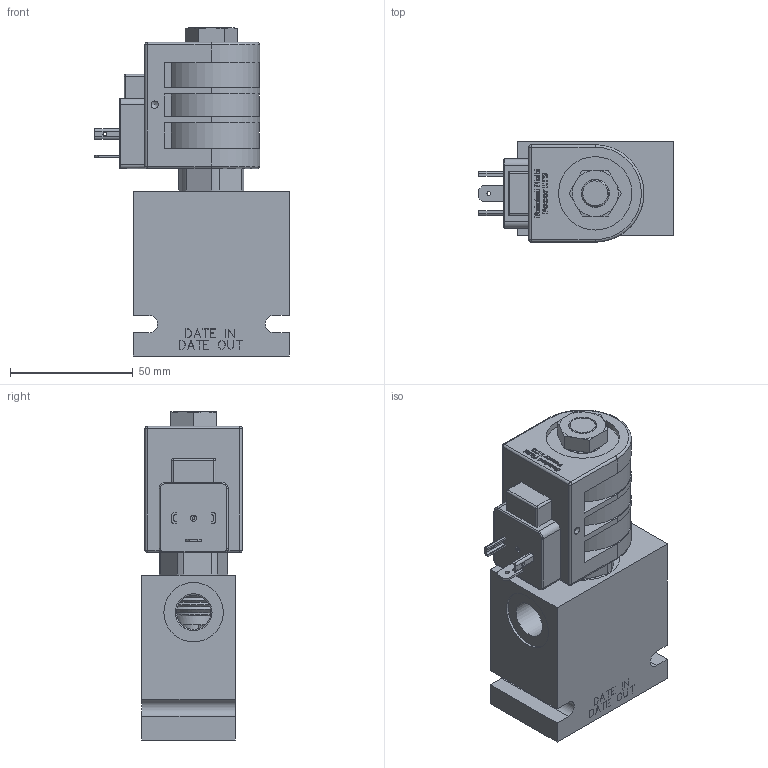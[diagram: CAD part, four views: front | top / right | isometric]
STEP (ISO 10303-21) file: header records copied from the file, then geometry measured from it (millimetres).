
FILE_DESCRIPTION( ( 'Unknown' ), '1' );
FILE_NAME( 'G:/Graphic Design/Graphic Design 2/Data Sheets/SOLENOID OPERATED VALVES/4_STEP/3W2P Spool/HF-S3A00-B3.stp', 'Unknown', ( 'Unknown' ), ( 'Unknown' ), 'PSStep 15.0.49', 'Unknown', ' ' );
FILE_SCHEMA( ( 'AUTOMOTIVE_DESIGN { 1 0 10303 214 1 1 1 1 }' ) );
Length unit declared in the file: millimetre
Products named in the file (19): d-lhc12; LHC-Body; LHC-Disc; PT-EL-HC-TerminalConnectors; D-HF-S3A-00; HFS3A00-3D Full1; HFS3A00-3D Full2; HFS3A00-3D Full3; HFS3A00-3D Full4; HFS3A00-3D Full5; HFS3A00-3D Full6; HFS3A00-3D Full7; HFS3A00-3D Full8; Delta_1_2_nut1; Assem1; B-D-DF-B3A
Assembly tree (19 placements, depth 3):
  Assem1
    B-D-DF-B3A
    D-HF-S3A-00
      HFS3A00-3D Full1
      HFS3A00-3D Full2
      HFS3A00-3D Full3
      HFS3A00-3D Full4
      HFS3A00-3D Full5
      HFS3A00-3D Full6
      HFS3A00-3D Full7
      HFS3A00-3D Full8
      Delta_1_2_nut1
    d-lhc12
      LHC-Body
      LHC-Disc  x2
      PT-EL-HC-TerminalConnectors
      PT-EL-HC-TerminalConnectors
      PT-EL-HC-TerminalConnectors
      PT-EL-HC-TerminalConnectors
Bounding box: 79.15 x 40.9 x 133.5 mm (x, y, z)
Volume: 238945.7 mm3; surface area: 55802.5 mm2
Topology: 17 solids, 17 shells, 861 faces, 2201 edges, 1434 vertices
Faces by surface type: plane 508, cylinder 119, extrusion 118, cone 73, torus 37, sphere 6
Full cylindrical faces by diameter (mm): 1 x1, 1.5 x3, 2.5 x1, 3 x2, 6.3 x1, 11.11 x1, 11.176 x1, 12.827 x1, 12.992 x1, 13.043 x2, 14 x2, 14.275 x1, 14.592 x1, 14.643 x2, 15 x6, 15.773 x4, 15.85 x1, 15.875 x3, 15.926 x1, 16.1 x3, 17.323 x1, 17.374 x4, 17.526 x1, 17.527 x1, 19.624 x1, 20.262 x2, 24.2 x3, 29.85 x2, 30.175 x1, 32 x2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
Entity records: 33168 total; most frequent: CARTESIAN_POINT 7024, ORIENTED_EDGE 4086, DIRECTION 3296, EDGE_CURVE 2043, VERTEX_POINT 1401, AXIS2_PLACEMENT_3D 1099, VECTOR 1098, EDGE_LOOP 1061
